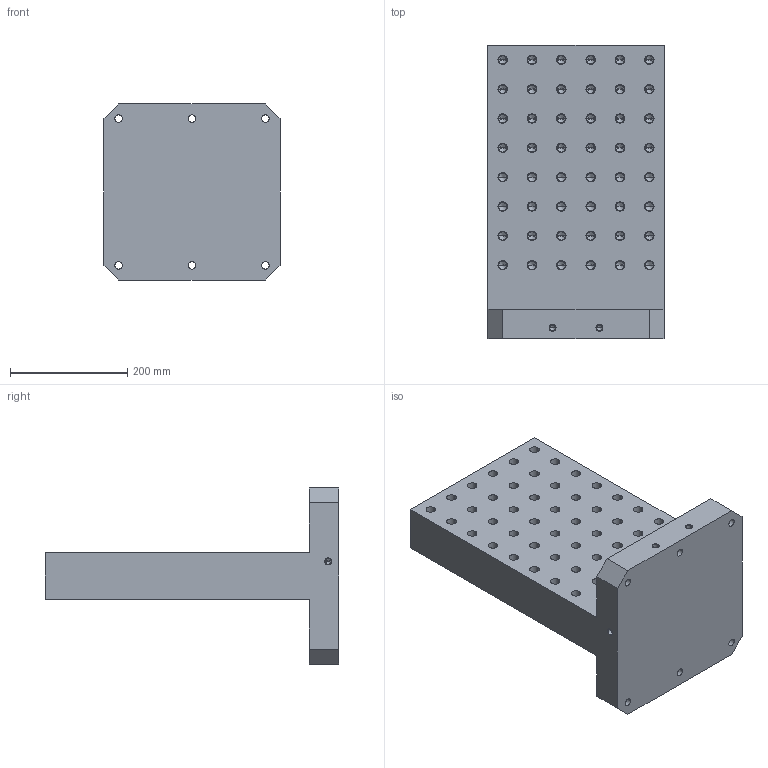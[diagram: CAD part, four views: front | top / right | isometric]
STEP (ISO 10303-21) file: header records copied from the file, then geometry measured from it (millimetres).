
FILE_DESCRIPTION((''),'2;1');
FILE_NAME('FG_WH_TOMB_RCG16NP001','2026-05-20T16:35:47',('Admin'),(''),'CREO PARAMETRIC BY PTC INC, 2025010','CREO PARAMETRIC BY PTC INC, 2025010','');
FILE_SCHEMA(('CONFIG_CONTROL_DESIGN'));
Length unit declared in the file: millimetre
Products named in the file (1): FG_WH_TOMB_RCG16NP001
Bounding box: 300 x 500 x 300 mm (x, y, z)
Volume: 14632893.4 mm3; surface area: 888928.7 mm2
Topology: 1 solids, 101 shells, 1032 faces, 2484 edges, 1556 vertices
Faces by surface type: cylinder 616, plane 216, cone 200
Entity records: 29171 total; most frequent: DIRECTION 5782, CARTESIAN_POINT 4873, ORIENTED_EDGE 4168, AXIS2_PLACEMENT_3D 2465, EDGE_CURVE 2284, VERTEX_POINT 1556, CIRCLE 1432, EDGE_LOOP 1346
